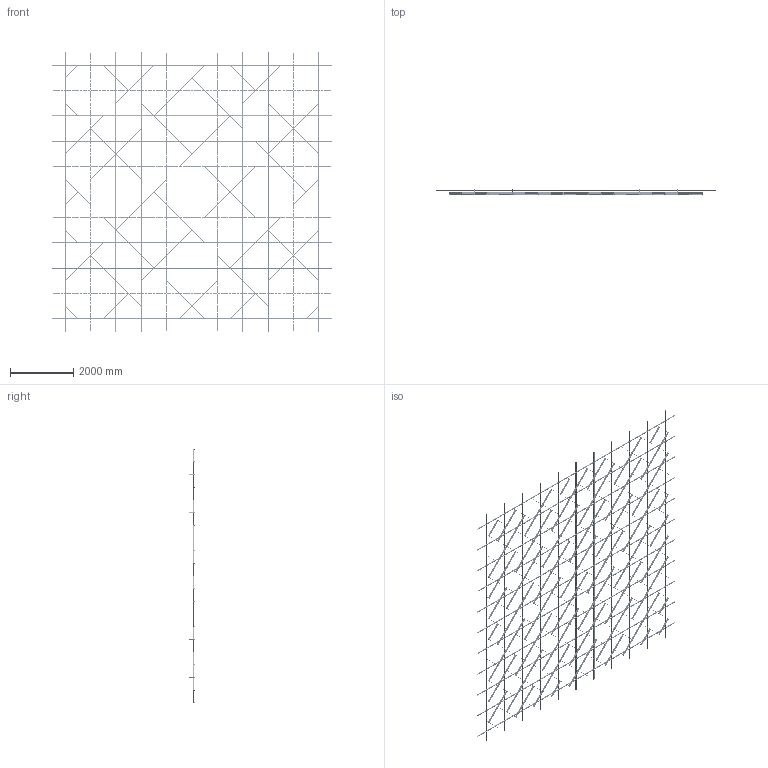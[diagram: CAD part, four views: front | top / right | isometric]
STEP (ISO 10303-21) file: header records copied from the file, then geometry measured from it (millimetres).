
FILE_DESCRIPTION (( 'STEP AP203' ), '1' );
FILE_NAME ('19 ìèíè ñ ïñ.step', '2025-11-25T13:04:00', ( '' ), ( '' ), 'SwSTEP 2.0', 'SolidWorks 2020', '' );
FILE_SCHEMA (( 'CONFIG_CONTROL_DESIGN' ));
Length unit declared in the file: millimetre
Products named in the file (5): Ñèñòåìà â çîíå 8000õ8000; SS.SEMA.2400 - Ñèìà-ïðîôèëü — îáðåçàí 1600; 19 ìèíè ñ ïñ; SS.SEMA.2400 - Ñèìà-ïðîôèëü; Var19
Assembly tree (90 placements, depth 3):
  19 ìèíè ñ ïñ
    Ñèñòåìà â çîíå 8000õ8000
      SS.SEMA.2400 - Ñèìà-ïðîôèëü  x66
      SS.SEMA.2400 - Ñèìà-ïðîôèëü — îáðåçàí 1600  x22
    Var19
Bounding box: 8800 x 158 x 8800 mm (x, y, z)
Volume: 97183901.7 mm3; surface area: 51406301.8 mm2
Topology: 1432 solids, 1432 shells, 22804 faces, 58412 edges, 38472 vertices
Faces by surface type: cylinder 13618, plane 9186
Entity records: 162207 total; most frequent: CARTESIAN_POINT 41210, ORIENTED_EDGE 23672, DIRECTION 22002, EDGE_CURVE 11836, AXIS2_PLACEMENT_3D 10752, VERTEX_POINT 7880, B_SPLINE_CURVE_WITH_KNOTS 7328, EDGE_LOOP 6810
